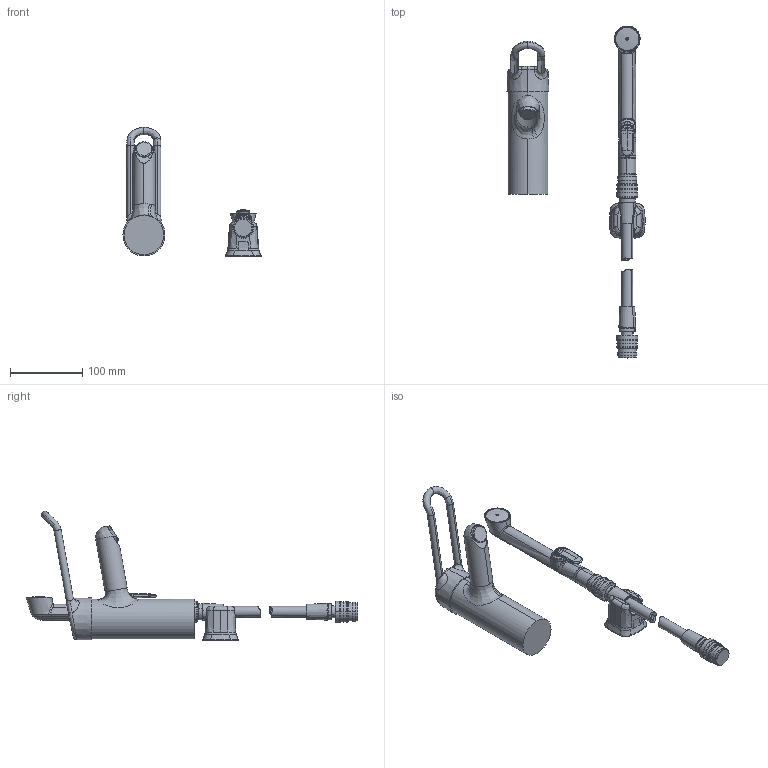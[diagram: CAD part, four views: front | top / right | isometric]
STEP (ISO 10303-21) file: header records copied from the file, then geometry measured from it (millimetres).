
FILE_DESCRIPTION (( 'STEP AP203' ), '1' );
FILE_NAME ('5512BF(2024).STEP', '2024-12-05T09:20:25', ( '' ), ( '' ), 'SwSTEP 2.0', 'SolidWorks 2024', '' );
FILE_SCHEMA (( 'CONFIG_CONTROL_DESIGN' ));
Products named in the file (1): 5512BF(2024)
Bounding box: 191.33 x 459.88 x 179.13 mm (x, y, z)
Volume: 759429.4 mm3; surface area: 125373.6 mm2
Topology: 17 solids, 17 shells, 568 faces, 1311 edges, 807 vertices
Faces by surface type: bspline 270, cylinder 126, plane 74, cone 58, torus 40
Entity records: 79592 total; most frequent: CARTESIAN_POINT 68610, ORIENTED_EDGE 2600, DIRECTION 1806, EDGE_CURVE 1300, VERTEX_POINT 807, AXIS2_PLACEMENT_3D 804, EDGE_LOOP 619, FACE_OUTER_BOUND 568
